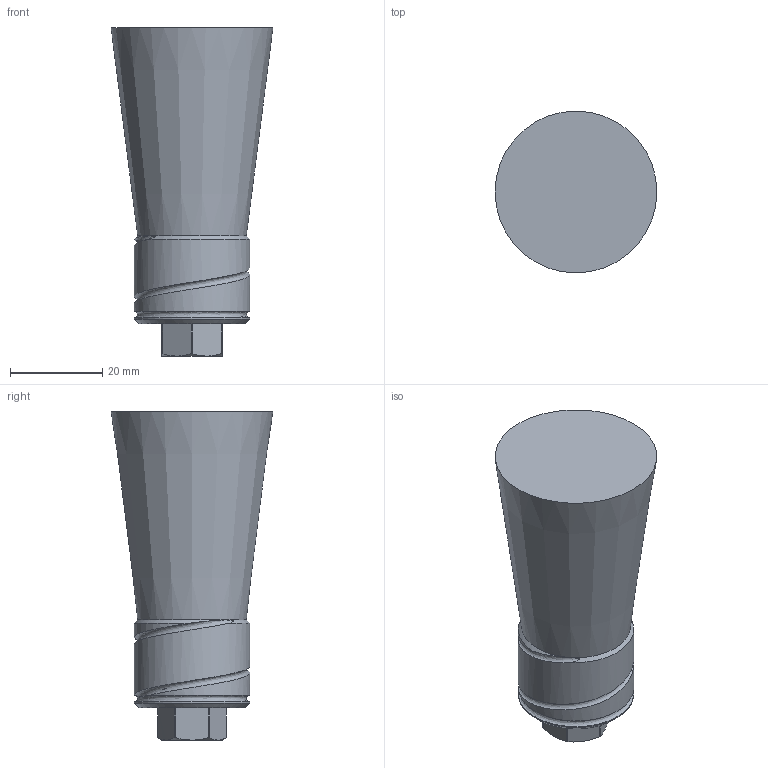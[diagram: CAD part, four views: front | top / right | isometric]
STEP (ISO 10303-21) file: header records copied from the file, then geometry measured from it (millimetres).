
FILE_DESCRIPTION (( 'STEP AP214' ), '1' );
FILE_NAME ('012_0125_0145_50.STEP', '2026-01-14T15:38:42', ( '' ), ( '' ), 'SwSTEP 2.0', 'SolidWorks 2022', '' );
FILE_SCHEMA (( 'AUTOMOTIVE_DESIGN' ));
Length unit declared in the file: millimetre
Products named in the file (1): 012_0125_0145_50
Bounding box: 35 x 35 x 71 mm (x, y, z)
Volume: 40241.5 mm3; surface area: 7747.2 mm2
Topology: 1 solids, 1 shells, 35 faces, 91 edges, 61 vertices
Faces by surface type: cylinder 11, cone 11, plane 10, bspline 3
Full cylindrical faces by diameter (mm): 2 x1, 8.57 x1, 25 x1
Entity records: 2063 total; most frequent: CARTESIAN_POINT 1287, ORIENTED_EDGE 150, DIRECTION 116, EDGE_CURVE 75, VERTEX_POINT 54, AXIS2_PLACEMENT_3D 49, EDGE_LOOP 45, B_SPLINE_CURVE_WITH_KNOTS 41
